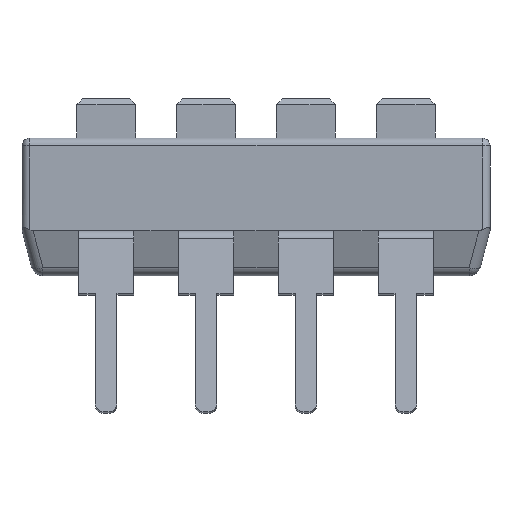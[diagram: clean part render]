
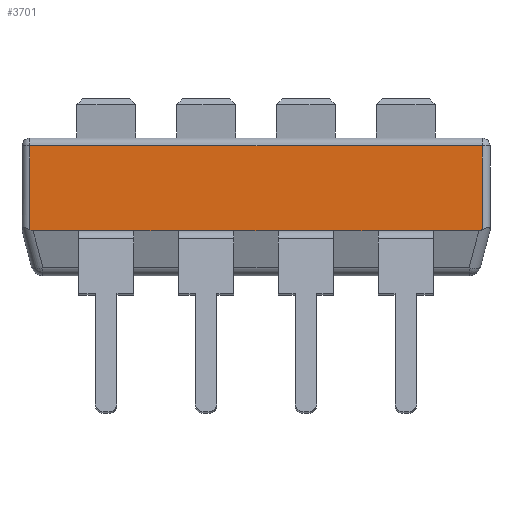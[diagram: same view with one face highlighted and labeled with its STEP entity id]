
A CAD part, front view. The second image highlights one B-rep face of the part: STEP entity #3701.
In plain terms, the highlighted planar face has unit normal (0, -1, 0).
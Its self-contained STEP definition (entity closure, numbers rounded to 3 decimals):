
#66 = EDGE_CURVE ( 'NONE', #3634, #6418, #2754, .T. ) ;
#98 = ORIENTED_EDGE ( 'NONE', *, *, #6203, .F. ) ;
#110 = VERTEX_POINT ( 'NONE', #801 ) ;
#184 = LINE ( 'NONE', #5172, #3682 ) ;
#200 = CARTESIAN_POINT ( 'NONE',  ( -6.96, -3.4, 1.14 ) ) ;
#265 = CARTESIAN_POINT ( 'NONE',  ( -6.96, -3.4, 3.3 ) ) ;
#329 = VECTOR ( 'NONE', #2915, 1000. ) ;
#351 = CARTESIAN_POINT ( 'NONE',  ( -5.666, -3.4, 1.14 ) ) ;
#363 = VERTEX_POINT ( 'NONE', #7085 ) ;
#364 = ORIENTED_EDGE ( 'NONE', *, *, #7866, .F. ) ;
#394 = CARTESIAN_POINT ( 'NONE',  ( 3.11, -3.4, 1.14 ) ) ;
#567 = CARTESIAN_POINT ( 'NONE',  ( 1.97, -3.4, 1.14 ) ) ;
#725 = DIRECTION ( 'NONE',  ( 1., 0., 0. ) ) ;
#801 = CARTESIAN_POINT ( 'NONE',  ( 4.51, -3.4, 1.14 ) ) ;
#872 = CARTESIAN_POINT ( 'NONE',  ( 5.692, -3.4, 1.14 ) ) ;
#901 = CARTESIAN_POINT ( 'NONE',  ( -0.57, -3.4, 1.14 ) ) ;
#947 = CARTESIAN_POINT ( 'NONE',  ( -6.96, -3.4, 1.14 ) ) ;
#966 = DIRECTION ( 'NONE',  ( 0., 0., 1. ) ) ;
#1183 = VERTEX_POINT ( 'NONE', #5984 ) ;
#1198 = PLANE ( 'NONE',  #7804 ) ;
#1211 = CARTESIAN_POINT ( 'NONE',  ( 0.57, -3.4, 1.14 ) ) ;
#1310 = VECTOR ( 'NONE', #7833, 1000. ) ;
#1321 = VECTOR ( 'NONE', #1899, 1000. ) ;
#1388 = EDGE_CURVE ( 'NONE', #2451, #6418, #7087, .T. ) ;
#1429 = VERTEX_POINT ( 'NONE', #394 ) ;
#1516 = VECTOR ( 'NONE', #4598, 1000. ) ;
#1609 = VECTOR ( 'NONE', #725, 1000. ) ;
#1689 = CARTESIAN_POINT ( 'NONE',  ( -5.72, -3.4, 1.15 ) ) ;
#1770 = CARTESIAN_POINT ( 'NONE',  ( -5.666, -3.4, 1.14 ) ) ;
#1824 = CARTESIAN_POINT ( 'NONE',  ( -7.059, -3.4, 1.14 ) ) ;
#1899 = DIRECTION ( 'NONE',  ( 1., 0., 0. ) ) ;
#2009 = ORIENTED_EDGE ( 'NONE', *, *, #3467, .T. ) ;
#2024 = CARTESIAN_POINT ( 'NONE',  ( 5.75, -3.4, 1.169 ) ) ;
#2031 =( BOUNDED_CURVE ( )  B_SPLINE_CURVE ( 3, ( #7331, #1689, #7378, #1770 ),
 .UNSPECIFIED., .F., .F. ) 
 B_SPLINE_CURVE_WITH_KNOTS ( ( 4, 4 ),
 ( 5.946, 6.199 ),
 .UNSPECIFIED. ) 
 CURVE ( )  GEOMETRIC_REPRESENTATION_ITEM ( )  RATIONAL_B_SPLINE_CURVE ( ( 1., 0.995, 0.995, 1. ) ) 
 REPRESENTATION_ITEM ( '' )  );
#2104 = EDGE_LOOP ( 'NONE', ( #7582, #5567, #5362, #2539, #6874, #2009, #3565, #6679, #5778, #98, #2622, #3111, #5835, #364 ) ) ;
#2445 = FACE_OUTER_BOUND ( 'NONE', #2104, .T. ) ;
#2451 = VERTEX_POINT ( 'NONE', #567 ) ;
#2486 = CARTESIAN_POINT ( 'NONE',  ( -6.96, -3.4, 1.14 ) ) ;
#2514 = DIRECTION ( 'NONE',  ( 1., 0., 0. ) ) ;
#2539 = ORIENTED_EDGE ( 'NONE', *, *, #5433, .F. ) ;
#2585 = VERTEX_POINT ( 'NONE', #2600 ) ;
#2600 = CARTESIAN_POINT ( 'NONE',  ( 5.75, -3.4, 1.169 ) ) ;
#2622 = ORIENTED_EDGE ( 'NONE', *, *, #66, .T. ) ;
#2679 = CARTESIAN_POINT ( 'NONE',  ( -1.97, -3.4, 1.14 ) ) ;
#2717 = DIRECTION ( 'NONE',  ( -1., 0., 0. ) ) ;
#2754 = LINE ( 'NONE', #7065, #1516 ) ;
#2781 = CARTESIAN_POINT ( 'NONE',  ( 5.72, -3.4, 1.15 ) ) ;
#2915 = DIRECTION ( 'NONE',  ( 1., 0., 0. ) ) ;
#3071 = EDGE_CURVE ( 'NONE', #2585, #5970, #7308, .T. ) ;
#3111 = ORIENTED_EDGE ( 'NONE', *, *, #1388, .F. ) ;
#3130 = LINE ( 'NONE', #6830, #4862 ) ;
#3152 = VECTOR ( 'NONE', #7623, 1000. ) ;
#3187 = DIRECTION ( 'NONE',  ( 0., 1., 0. ) ) ;
#3189 = CARTESIAN_POINT ( 'NONE',  ( -7.059, -3.4, 1.14 ) ) ;
#3467 = EDGE_CURVE ( 'NONE', #1183, #5099, #2031, .T. ) ;
#3476 = CARTESIAN_POINT ( 'NONE',  ( 5.75, -3.4, 3.3 ) ) ;
#3565 = ORIENTED_EDGE ( 'NONE', *, *, #3688, .T. ) ;
#3616 = CARTESIAN_POINT ( 'NONE',  ( -5.75, -3.4, 1.14 ) ) ;
#3634 = VERTEX_POINT ( 'NONE', #901 ) ;
#3682 = VECTOR ( 'NONE', #5219, 1000. ) ;
#3688 = EDGE_CURVE ( 'NONE', #5099, #363, #3822, .T. ) ;
#3701 = ADVANCED_FACE ( 'NONE', ( #2445 ), #1198, .F. ) ;
#3761 = CARTESIAN_POINT ( 'NONE',  ( -3.11, -3.4, 1.14 ) ) ;
#3779 = LINE ( 'NONE', #3616, #6036 ) ;
#3802 = LINE ( 'NONE', #3189, #3152 ) ;
#3822 = LINE ( 'NONE', #6341, #1609 ) ;
#3905 = CARTESIAN_POINT ( 'NONE',  ( -6.96, -3.4, 1.14 ) ) ;
#4179 = CARTESIAN_POINT ( 'NONE',  ( -5.75, -3.4, 3.3 ) ) ;
#4335 = LINE ( 'NONE', #1824, #1321 ) ;
#4598 = DIRECTION ( 'NONE',  ( 1., 0., 0. ) ) ;
#4686 = EDGE_CURVE ( 'NONE', #110, #5015, #3802, .T. ) ;
#4695 = EDGE_CURVE ( 'NONE', #7666, #7156, #4335, .T. ) ;
#4756 = CARTESIAN_POINT ( 'NONE',  ( 5.75, -3.4, 1.14 ) ) ;
#4819 = VECTOR ( 'NONE', #966, 1000. ) ;
#4862 = VECTOR ( 'NONE', #2514, 1000. ) ;
#5015 = VERTEX_POINT ( 'NONE', #5139 ) ;
#5099 = VERTEX_POINT ( 'NONE', #351 ) ;
#5139 = CARTESIAN_POINT ( 'NONE',  ( 5.666, -3.4, 1.14 ) ) ;
#5172 = CARTESIAN_POINT ( 'NONE',  ( -6.96, -3.4, 1.14 ) ) ;
#5219 = DIRECTION ( 'NONE',  ( -1., 0., 0. ) ) ;
#5248 = EDGE_CURVE ( 'NONE', #6375, #1183, #3779, .T. ) ;
#5362 = ORIENTED_EDGE ( 'NONE', *, *, #3071, .T. ) ;
#5433 = EDGE_CURVE ( 'NONE', #6375, #5970, #6032, .T. ) ;
#5464 = DIRECTION ( 'NONE',  ( -1., 0., 0. ) ) ;
#5567 = ORIENTED_EDGE ( 'NONE', *, *, #7788, .T. ) ;
#5778 = ORIENTED_EDGE ( 'NONE', *, *, #4695, .T. ) ;
#5834 = LINE ( 'NONE', #3905, #6651 ) ;
#5835 = ORIENTED_EDGE ( 'NONE', *, *, #7023, .T. ) ;
#5970 = VERTEX_POINT ( 'NONE', #3476 ) ;
#5984 = CARTESIAN_POINT ( 'NONE',  ( -5.75, -3.4, 1.169 ) ) ;
#6032 = LINE ( 'NONE', #265, #329 ) ;
#6036 = VECTOR ( 'NONE', #6207, 1000. ) ;
#6087 =( BOUNDED_CURVE ( )  B_SPLINE_CURVE ( 3, ( #7751, #872, #2781, #2024 ),
 .UNSPECIFIED., .F., .F. ) 
 B_SPLINE_CURVE_WITH_KNOTS ( ( 4, 4 ),
 ( 3.226, 3.479 ),
 .UNSPECIFIED. ) 
 CURVE ( )  GEOMETRIC_REPRESENTATION_ITEM ( )  RATIONAL_B_SPLINE_CURVE ( ( 1., 0.995, 0.995, 1. ) ) 
 REPRESENTATION_ITEM ( '' )  );
#6131 = LINE ( 'NONE', #947, #6380 ) ;
#6203 = EDGE_CURVE ( 'NONE', #3634, #7156, #5834, .T. ) ;
#6207 = DIRECTION ( 'NONE',  ( 0., 0., -1. ) ) ;
#6277 = DIRECTION ( 'NONE',  ( -1., 0., 0. ) ) ;
#6341 = CARTESIAN_POINT ( 'NONE',  ( -7.059, -3.4, 1.14 ) ) ;
#6375 = VERTEX_POINT ( 'NONE', #4179 ) ;
#6380 = VECTOR ( 'NONE', #5464, 1000. ) ;
#6418 = VERTEX_POINT ( 'NONE', #1211 ) ;
#6651 = VECTOR ( 'NONE', #2717, 1000. ) ;
#6679 = ORIENTED_EDGE ( 'NONE', *, *, #7198, .F. ) ;
#6830 = CARTESIAN_POINT ( 'NONE',  ( -7.059, -3.4, 1.14 ) ) ;
#6874 = ORIENTED_EDGE ( 'NONE', *, *, #5248, .T. ) ;
#7023 = EDGE_CURVE ( 'NONE', #2451, #1429, #3130, .T. ) ;
#7065 = CARTESIAN_POINT ( 'NONE',  ( -7.059, -3.4, 1.14 ) ) ;
#7085 = CARTESIAN_POINT ( 'NONE',  ( -4.51, -3.4, 1.14 ) ) ;
#7087 = LINE ( 'NONE', #200, #1310 ) ;
#7156 = VERTEX_POINT ( 'NONE', #2679 ) ;
#7198 = EDGE_CURVE ( 'NONE', #7666, #363, #184, .T. ) ;
#7308 = LINE ( 'NONE', #4756, #4819 ) ;
#7331 = CARTESIAN_POINT ( 'NONE',  ( -5.75, -3.4, 1.169 ) ) ;
#7378 = CARTESIAN_POINT ( 'NONE',  ( -5.692, -3.4, 1.14 ) ) ;
#7582 = ORIENTED_EDGE ( 'NONE', *, *, #4686, .T. ) ;
#7623 = DIRECTION ( 'NONE',  ( 1., 0., 0. ) ) ;
#7666 = VERTEX_POINT ( 'NONE', #3761 ) ;
#7751 = CARTESIAN_POINT ( 'NONE',  ( 5.666, -3.4, 1.14 ) ) ;
#7788 = EDGE_CURVE ( 'NONE', #5015, #2585, #6087, .T. ) ;
#7804 = AXIS2_PLACEMENT_3D ( 'NONE', #2486, #3187, #6277 ) ;
#7833 = DIRECTION ( 'NONE',  ( -1., 0., 0. ) ) ;
#7866 = EDGE_CURVE ( 'NONE', #110, #1429, #6131, .T. ) ;
